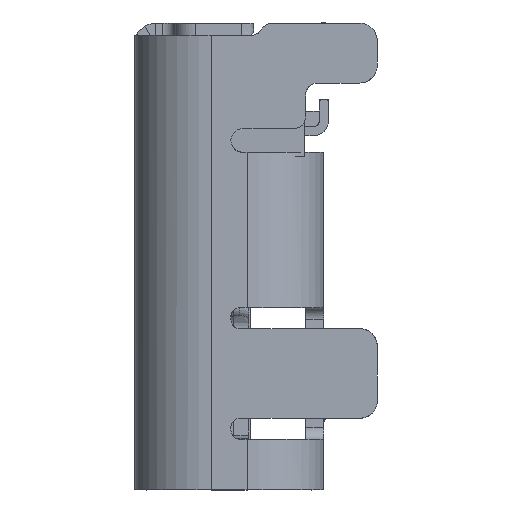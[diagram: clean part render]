
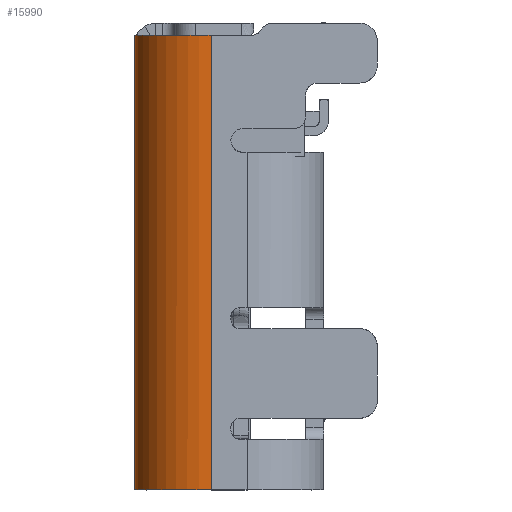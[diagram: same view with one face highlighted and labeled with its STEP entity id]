
A CAD part, left-side view. The second image highlights one B-rep face of the part: STEP entity #15990.
In plain terms, the highlighted free-form (B-spline) face has degree [1, 3] with [2, 4] control points.
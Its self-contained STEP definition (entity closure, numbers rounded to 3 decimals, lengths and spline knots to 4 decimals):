
#1346 = EDGE_LOOP ( 'NONE', ( #75055, #117399, #79685, #130297 ) ) ;
#1480 = EDGE_CURVE ( 'NONE', #114735, #19751, #119950, .T. ) ;
#2335 = CARTESIAN_POINT ( 'NONE',  ( -4.47, 0.5, -2.6615 ) ) ;
#7057 = B_SPLINE_CURVE_WITH_KNOTS ( 'NONE', 3,
 ( #118962, #86183, #19416, #41211, #63698 ),
 .UNSPECIFIED., .F., .F.,
 ( 4, 1, 4 ),
 ( 0., 0.7854, 1.5708 ),
 .UNSPECIFIED. ) ;
#12624 = CARTESIAN_POINT ( 'NONE',  ( -3.19, 1.78, -10.2715 ) ) ;
#15477 = FACE_OUTER_BOUND ( 'NONE', #1346, .T. ) ;
#15990 = ADVANCED_FACE ( 'NONE', ( #15477 ), #113131, .F. ) ;
#19416 = CARTESIAN_POINT ( 'NONE',  ( -4.1904, 1.5004, -10.2715 ) ) ;
#19751 = VERTEX_POINT ( 'NONE', #132817 ) ;
#35698 = CARTESIAN_POINT ( 'NONE',  ( -4.1904, 1.5004, -2.6615 ) ) ;
#36556 = CARTESIAN_POINT ( 'NONE',  ( -3.19, 1.78, -10.2715 ) ) ;
#37993 = CARTESIAN_POINT ( 'NONE',  ( -4.47, 1.2498, -10.2715 ) ) ;
#38548 = CARTESIAN_POINT ( 'NONE',  ( -4.47, 0.5, -2.6615 ) ) ;
#41211 = CARTESIAN_POINT ( 'NONE',  ( -3.5262, 1.7833, -10.2715 ) ) ;
#52651 = CARTESIAN_POINT ( 'NONE',  ( -4.47, 0.5, -2.6615 ) ) ;
#59765 = CARTESIAN_POINT ( 'NONE',  ( -4.47, 1.2498, -2.6615 ) ) ;
#63698 = CARTESIAN_POINT ( 'NONE',  ( -3.19, 1.78, -10.2715 ) ) ;
#65594 = CARTESIAN_POINT ( 'NONE',  ( -3.19, 1.78, -2.6615 ) ) ;
#65683 = CARTESIAN_POINT ( 'NONE',  ( -4.4733, 0.8362, -2.6615 ) ) ;
#73750 = CARTESIAN_POINT ( 'NONE',  ( -3.19, 1.78, -2.6615 ) ) ;
#75055 = ORIENTED_EDGE ( 'NONE', *, *, #100853, .F. ) ;
#78736 = EDGE_CURVE ( 'NONE', #96285, #128707, #122090, .T. ) ;
#79685 = ORIENTED_EDGE ( 'NONE', *, *, #104520, .F. ) ;
#86183 = CARTESIAN_POINT ( 'NONE',  ( -4.4733, 0.8362, -10.2715 ) ) ;
#93196 = CARTESIAN_POINT ( 'NONE',  ( -3.9398, 1.78, -10.2715 ) ) ;
#96285 = VERTEX_POINT ( 'NONE', #105903 ) ;
#99740 = CARTESIAN_POINT ( 'NONE',  ( -3.19, 1.78, -10.2715 ) ) ;
#100853 = EDGE_CURVE ( 'NONE', #19751, #128707, #7057, .T. ) ;
#104520 = EDGE_CURVE ( 'NONE', #96285, #114735, #112416, .T. ) ;
#105903 = CARTESIAN_POINT ( 'NONE',  ( -3.19, 1.78, -2.6615 ) ) ;
#112416 = B_SPLINE_CURVE_WITH_KNOTS ( 'NONE', 3,
 ( #73750, #132605, #35698, #65683, #2335 ),
 .UNSPECIFIED., .F., .F.,
 ( 4, 1, 4 ),
 ( 0., 0.7854, 1.5708 ),
 .UNSPECIFIED. ) ;
#113131 =( BOUNDED_SURFACE ( )  B_SPLINE_SURFACE ( 1, 3, ( 
 ( #36556, #93196, #37993, #138394 ),
 ( #116468, #136930, #59765, #115009 ) ),
 .UNSPECIFIED., .F., .F., .F. ) 
 B_SPLINE_SURFACE_WITH_KNOTS ( ( 2, 2 ),
 ( 4, 4 ),
 ( 0.0192, 0.9808 ),
 ( 0., 1. ),
 .UNSPECIFIED. ) 
 GEOMETRIC_REPRESENTATION_ITEM ( )  RATIONAL_B_SPLINE_SURFACE ( (
 ( 1., 0.805, 0.805, 1.),
 ( 1., 0.805, 0.805, 1.) ) ) 
 REPRESENTATION_ITEM ( '' )  SURFACE ( )  );
#114735 = VERTEX_POINT ( 'NONE', #38548 ) ;
#115009 = CARTESIAN_POINT ( 'NONE',  ( -4.47, 0.5, -2.6615 ) ) ;
#116468 = CARTESIAN_POINT ( 'NONE',  ( -3.19, 1.78, -2.6615 ) ) ;
#117399 = ORIENTED_EDGE ( 'NONE', *, *, #1480, .F. ) ;
#118962 = CARTESIAN_POINT ( 'NONE',  ( -4.47, 0.5, -10.2715 ) ) ;
#119950 = B_SPLINE_CURVE_WITH_KNOTS ( 'NONE', 1,
 ( #52651, #129754 ),
 .UNSPECIFIED., .F., .F.,
 ( 2, 2 ),
 ( 0., 1. ),
 .UNSPECIFIED. ) ;
#122090 = B_SPLINE_CURVE_WITH_KNOTS ( 'NONE', 1,
 ( #65594, #99740 ),
 .UNSPECIFIED., .F., .F.,
 ( 2, 2 ),
 ( 0., 1. ),
 .UNSPECIFIED. ) ;
#128707 = VERTEX_POINT ( 'NONE', #12624 ) ;
#129754 = CARTESIAN_POINT ( 'NONE',  ( -4.47, 0.5, -10.2715 ) ) ;
#130297 = ORIENTED_EDGE ( 'NONE', *, *, #78736, .T. ) ;
#132605 = CARTESIAN_POINT ( 'NONE',  ( -3.5262, 1.7833, -2.6615 ) ) ;
#132817 = CARTESIAN_POINT ( 'NONE',  ( -4.47, 0.5, -10.2715 ) ) ;
#136930 = CARTESIAN_POINT ( 'NONE',  ( -3.9398, 1.78, -2.6615 ) ) ;
#138394 = CARTESIAN_POINT ( 'NONE',  ( -4.47, 0.5, -10.2715 ) ) ;
